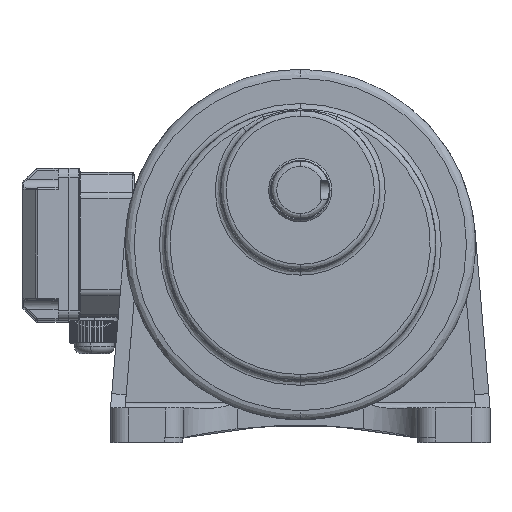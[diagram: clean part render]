
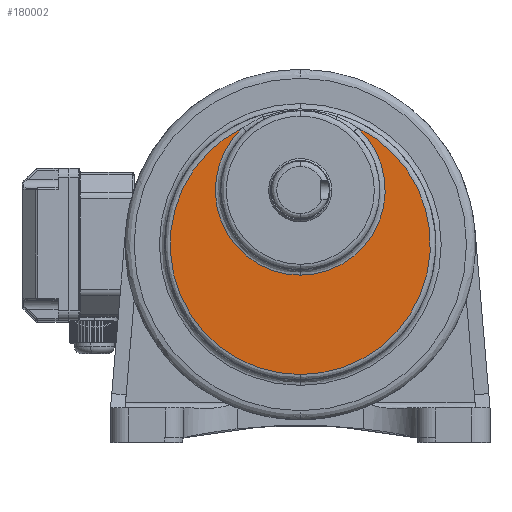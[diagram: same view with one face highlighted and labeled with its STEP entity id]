
A CAD part, top view. The second image highlights one B-rep face of the part: STEP entity #180002.
In plain terms, the highlighted planar face has unit normal (0, 0, 1) as drawn and (0, 1, 0) by its records, which use the part's own axes.
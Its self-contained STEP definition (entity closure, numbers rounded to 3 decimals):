
#1810 = DIRECTION ( 'NONE',  ( 0., 1., 0. ) ) ;
#2961 = AXIS2_PLACEMENT_3D ( 'NONE', #192082, #43567, #109734 ) ;
#4676 = PLANE ( 'NONE',  #154950 ) ;
#9692 = CIRCLE ( 'NONE', #130883, 72. ) ;
#18645 = EDGE_LOOP ( 'NONE', ( #59741, #24016, #63163, #168540 ) ) ;
#24016 = ORIENTED_EDGE ( 'NONE', *, *, #44781, .T. ) ;
#42636 = DIRECTION ( 'NONE',  ( 0., -1., 0. ) ) ;
#43567 = DIRECTION ( 'NONE',  ( 0., -1., 0. ) ) ;
#44781 = EDGE_CURVE ( 'NONE', #141861, #194183, #166799, .T. ) ;
#46241 = VERTEX_POINT ( 'NONE', #197292 ) ;
#59741 = ORIENTED_EDGE ( 'NONE', *, *, #212009, .T. ) ;
#63163 = ORIENTED_EDGE ( 'NONE', *, *, #95380, .T. ) ;
#67936 = DIRECTION ( 'NONE',  ( 0., 0., 1. ) ) ;
#68145 = CARTESIAN_POINT ( 'NONE',  ( 0., 0., 30. ) ) ;
#70798 = CARTESIAN_POINT ( 'NONE',  ( 78., 0., -48.063 ) ) ;
#73271 = AXIS2_PLACEMENT_3D ( 'NONE', #68145, #134356, #200420 ) ;
#85767 = CARTESIAN_POINT ( 'NONE',  ( 0., 0., 102. ) ) ;
#92810 = CIRCLE ( 'NONE', #213932, 47. ) ;
#95380 = EDGE_CURVE ( 'NONE', #194183, #46241, #189922, .T. ) ;
#103890 = CARTESIAN_POINT ( 'NONE',  ( -31.828, 0., -34.583 ) ) ;
#108794 = DIRECTION ( 'NONE',  ( 0., 0., 1. ) ) ;
#109734 = DIRECTION ( 'NONE',  ( 0., 0., 1. ) ) ;
#130883 = AXIS2_PLACEMENT_3D ( 'NONE', #150383, #1810, #67936 ) ;
#134356 = DIRECTION ( 'NONE',  ( 0., 1., 0. ) ) ;
#136984 = DIRECTION ( 'NONE',  ( 0., 1., 0. ) ) ;
#141861 = VERTEX_POINT ( 'NONE', #85767 ) ;
#150091 = VERTEX_POINT ( 'NONE', #103890 ) ;
#150383 = CARTESIAN_POINT ( 'NONE',  ( 0., 0., 30. ) ) ;
#153246 = FACE_OUTER_BOUND ( 'NONE', #18645, .T. ) ;
#154950 = AXIS2_PLACEMENT_3D ( 'NONE', #70798, #136984, #203056 ) ;
#165870 = EDGE_CURVE ( 'NONE', #46241, #150091, #92810, .T. ) ;
#166799 = CIRCLE ( 'NONE', #73271, 72. ) ;
#168540 = ORIENTED_EDGE ( 'NONE', *, *, #165870, .T. ) ;
#178308 = CARTESIAN_POINT ( 'NONE',  ( 31.828, 0., -34.583 ) ) ;
#180002 = ADVANCED_FACE ( 'NONE', ( #153246 ), #4676, .T. ) ;
#189922 = CIRCLE ( 'NONE', #2961, 47. ) ;
#191146 = CARTESIAN_POINT ( 'NONE',  ( 0., 0., 0. ) ) ;
#192082 = CARTESIAN_POINT ( 'NONE',  ( 0., 0., 0. ) ) ;
#194183 = VERTEX_POINT ( 'NONE', #178308 ) ;
#197292 = CARTESIAN_POINT ( 'NONE',  ( 0., 0., 47. ) ) ;
#200420 = DIRECTION ( 'NONE',  ( 0., 0., 1. ) ) ;
#203056 = DIRECTION ( 'NONE',  ( 0., 0., 1. ) ) ;
#212009 = EDGE_CURVE ( 'NONE', #150091, #141861, #9692, .T. ) ;
#213932 = AXIS2_PLACEMENT_3D ( 'NONE', #191146, #42636, #108794 ) ;
